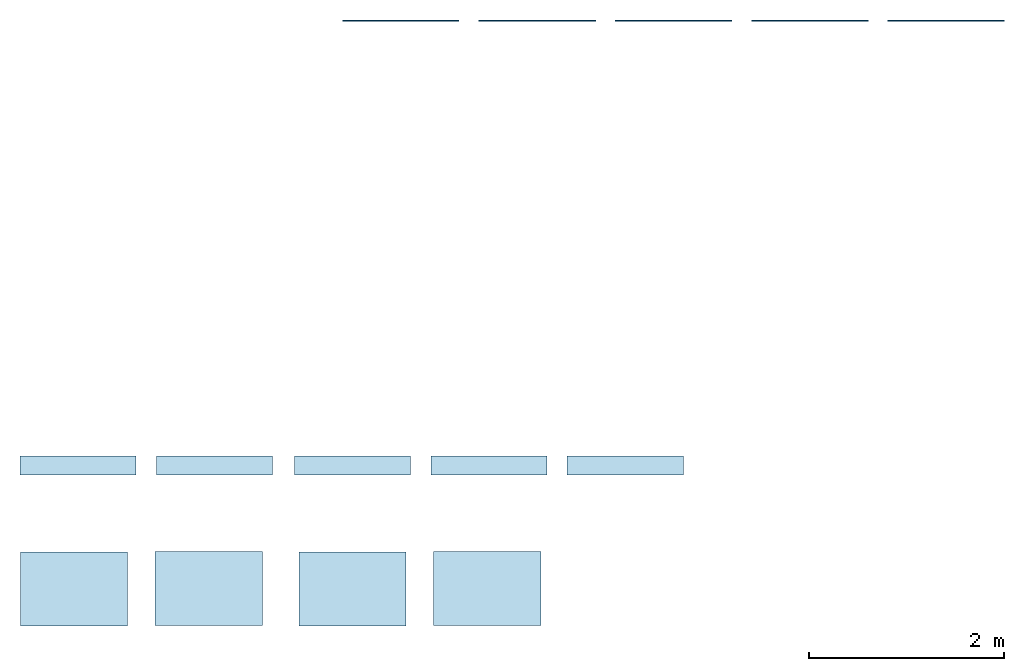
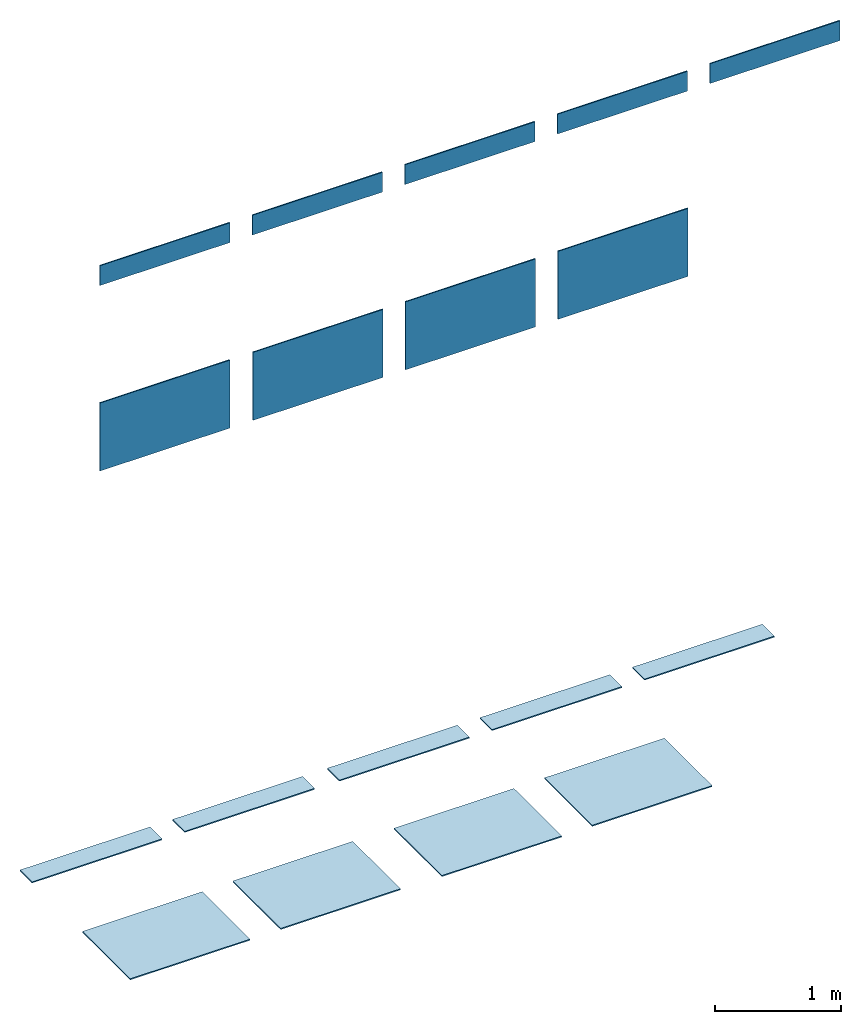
# One storey: 9 slabs, 9 walls.
"""IFC2X3 building model written with IfcOpenShell, lengths in metres."""

from ifc_helpers import new_model, entity, si_unit, converted_unit, derived_unit, direction, frame, frame_2d, origin, origin_2d_with_axis, place, context, subcontext, project, spatial, rectangle, extrude, material, layer, layer_set, layer_usage, type_object, element, save


model = new_model("IFC2X3")

# Units and contexts
model_context = context("Model", 3, precision=1e-05, world=origin(), true_north=direction((6.12303176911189e-17, 1.0)))
body_context = subcontext(model_context, "Body", "Model", "MODEL_VIEW")
ifc_project = project(units=[si_unit("LENGTHUNIT", "METRE"), si_unit("AREAUNIT", "SQUARE_METRE"), si_unit("VOLUMEUNIT", "CUBIC_METRE"), converted_unit("PLANEANGLEUNIT", "DEGREE", entity("IfcRatioMeasure", 0.0174532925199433), si_unit("PLANEANGLEUNIT", "RADIAN"), dimensions=[0, 0, 0, 0, 0, 0, 0]), si_unit("MASSUNIT", "GRAM", prefix="KILO"), si_unit("TIMEUNIT", "SECOND"), si_unit("FREQUENCYUNIT", "HERTZ"), si_unit("THERMODYNAMICTEMPERATUREUNIT", "DEGREE_CELSIUS"), derived_unit("THERMALTRANSMITTANCEUNIT", [(si_unit("MASSUNIT", "GRAM", prefix="KILO"), 1), (si_unit("THERMODYNAMICTEMPERATUREUNIT", "KELVIN"), -1), (si_unit("TIMEUNIT", "SECOND"), -3)]), derived_unit("VOLUMETRICFLOWRATEUNIT", [(si_unit("LENGTHUNIT", "METRE"), 3), (si_unit("TIMEUNIT", "SECOND"), -1)]), si_unit("ELECTRICCURRENTUNIT", "AMPERE"), si_unit("ELECTRICVOLTAGEUNIT", "VOLT"), si_unit("POWERUNIT", "WATT"), si_unit("FORCEUNIT", "NEWTON", prefix="KILO"), si_unit("ILLUMINANCEUNIT", "LUX"), si_unit("LUMINOUSFLUXUNIT", "LUMEN"), si_unit("LUMINOUSINTENSITYUNIT", "CANDELA"), derived_unit("USERDEFINED", [(si_unit("MASSUNIT", "GRAM", prefix="KILO"), -1), (si_unit("LENGTHUNIT", "METRE"), -2), (si_unit("TIMEUNIT", "SECOND"), 3), (si_unit("LUMINOUSFLUXUNIT", "LUMEN"), 1)]), derived_unit("LINEARVELOCITYUNIT", [(si_unit("LENGTHUNIT", "METRE"), 1), (si_unit("TIMEUNIT", "SECOND"), -1)]), si_unit("PRESSUREUNIT", "PASCAL"), derived_unit("USERDEFINED", [(si_unit("LENGTHUNIT", "METRE"), -2), (si_unit("MASSUNIT", "GRAM", prefix="KILO"), 1), (si_unit("TIMEUNIT", "SECOND"), -2)])], contexts=[model_context])

# Site, building, storey
site_placement = place(None, origin())
site = spatial("IfcSite", under=ifc_project, at=site_placement, Name="Default", CompositionType="ELEMENT")
building_placement = place(site_placement, origin())
building = spatial("IfcBuilding", under=site, at=building_placement, CompositionType="ELEMENT")
storey_placement = place(building_placement, origin())
storey = spatial("IfcBuildingStorey", under=building, at=storey_placement, Name="WORLD WOODS FLOOR TILES", CompositionType="ELEMENT", Elevation=0.0)

# Slabs
ifc_material_1 = material(Name="VIVES NORDLAND-R BEIGE 19.2x119.3")
ifc_layer_1 = layer(ifc_material_1, 0.011)
ifc_layer_set_1 = layer_set([ifc_layer_1], Name="Suelo:VIVES NORDLAND-R BEIGE 19.2x119.3")
ifc_layer_usage_1 = layer_usage(ifc_layer_set_1, "AXIS3", "POSITIVE", 0.0)
slab_1_placement = place(storey_placement, origin())
element("IfcSlab", 1, at=slab_1_placement, inside=storey, material=ifc_layer_usage_1, Name="Suelo:VIVES NORDLAND-R BEIGE 19.2x119.3", ObjectType="Suelo:VIVES NORDLAND-R BEIGE 19.2x119.3", PredefinedType="FLOOR", context=body_context, shape_type="SweptSolid", body=[
    extrude(rectangle(XDim=0.192, YDim=1.193, at=frame_2d((0.0, 1.11022302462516e-16), x_axis=(1.0, 0.0))), frame((-1.93692688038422, -3.95340212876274, 0.0), z_axis=(0.0, 0.0, -1.0), x_axis=(0.0, 1.0, 0.0)), (0.0, 0.0, 1.0), 0.011),
])
ifc_material_2 = material(Name="VIVES FREMONT-R NATURAL 19.2x119.3")
ifc_layer_2 = layer(ifc_material_2, 0.011)
ifc_layer_set_2 = layer_set([ifc_layer_2], Name="Suelo:VIVES FREMONT-R NATURAL 19.2x119.3")
ifc_layer_usage_2 = layer_usage(ifc_layer_set_2, "AXIS3", "POSITIVE", 0.0)
slab_2_placement = place(storey_placement, origin())
element("IfcSlab", 2, at=slab_2_placement, inside=storey, material=ifc_layer_usage_2, Name="Suelo:VIVES FREMONT-R NATURAL 19.2x119.3", ObjectType="Suelo:VIVES FREMONT-R NATURAL 19.2x119.3", PredefinedType="FLOOR", context=body_context, shape_type="SweptSolid", body=[
    extrude(rectangle(XDim=0.192, YDim=1.193, at=origin_2d_with_axis()), frame((-0.536926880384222, -3.95340212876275, 0.0), z_axis=(0.0, 0.0, -1.0), x_axis=(0.0, 1.0, 0.0)), (0.0, 0.0, 1.0), 0.011),
])
ifc_material_3 = material(Name="VIVES VENETO-R CANELA 19.2x119.3")
ifc_layer_3 = layer(ifc_material_3, 0.011)
ifc_layer_set_3 = layer_set([ifc_layer_3], Name="Suelo:VIVES VENETO-R CANELA 19.2x119.3")
ifc_layer_usage_3 = layer_usage(ifc_layer_set_3, "AXIS3", "POSITIVE", 0.0)
slab_3_placement = place(storey_placement, origin())
element("IfcSlab", 3, at=slab_3_placement, inside=storey, material=ifc_layer_usage_3, Name="Suelo:VIVES VENETO-R CANELA 19.2x119.3", ObjectType="Suelo:VIVES VENETO-R CANELA 19.2x119.3", PredefinedType="FLOOR", context=body_context, shape_type="SweptSolid", body=[
    extrude(rectangle(XDim=0.192, YDim=1.193, at=origin_2d_with_axis()), frame((0.883073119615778, -3.95340212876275, 0.0), z_axis=(0.0, 0.0, -1.0), x_axis=(0.0, 1.0, 0.0)), (0.0, 0.0, 1.0), 0.011),
])
ifc_material_4 = material(Name="VIVES OKINAWA-R CARBON 19.2x119.3")
ifc_layer_4 = layer(ifc_material_4, 0.011)
ifc_layer_set_4 = layer_set([ifc_layer_4], Name="Suelo:VIVES OKINAWA-R CARBON 19.2x119.3")
ifc_layer_usage_4 = layer_usage(ifc_layer_set_4, "AXIS3", "POSITIVE", 0.0)
slab_4_placement = place(storey_placement, origin())
element("IfcSlab", 4, at=slab_4_placement, inside=storey, material=ifc_layer_usage_4, Name="Suelo:VIVES OKINAWA-R CARBON 19.2x119.3", ObjectType="Suelo:VIVES OKINAWA-R CARBON 19.2x119.3", PredefinedType="FLOOR", context=body_context, shape_type="SweptSolid", body=[
    extrude(rectangle(XDim=0.192, YDim=1.193, at=frame_2d((0.0, -2.22044604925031e-16), x_axis=(1.0, 0.0))), frame((2.28307311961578, -3.95340212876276, 0.0), z_axis=(0.0, 0.0, -1.0), x_axis=(0.0, 1.0, 0.0)), (0.0, 0.0, 1.0), 0.011),
])
ifc_material_5 = material(Name="VIVES NAMIBE-R 19.2x119.3")
ifc_layer_5 = layer(ifc_material_5, 0.011)
ifc_layer_set_5 = layer_set([ifc_layer_5], Name="Suelo:VIVES NAMIBE-R 19.2x119.3")
ifc_layer_usage_5 = layer_usage(ifc_layer_set_5, "AXIS3", "POSITIVE", 0.0)
slab_5_placement = place(storey_placement, origin())
element("IfcSlab", 5, at=slab_5_placement, inside=storey, material=ifc_layer_usage_5, Name="Suelo:VIVES NAMIBE-R 19.2x119.3", ObjectType="Suelo:VIVES NAMIBE-R 19.2x119.3", PredefinedType="FLOOR", context=body_context, shape_type="SweptSolid", body=[
    extrude(rectangle(XDim=0.192, YDim=1.193, at=frame_2d((0.0, -2.22044604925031e-16), x_axis=(1.0, 0.0))), frame((3.68307311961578, -3.95340212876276, 0.0), z_axis=(0.0, 0.0, -1.0), x_axis=(0.0, 1.0, 0.0)), (0.0, 0.0, 1.0), 0.011),
])
ifc_material_6 = material(Name="VIVES ADAMANT NORDLAND BEIGE 22x38")
ifc_layer_6 = layer(ifc_material_6, 0.011)
ifc_layer_set_6 = layer_set([ifc_layer_6], Name="Suelo:VIVES ADAMANT NORDLAND BEIGE 22x38")
ifc_layer_usage_6 = layer_usage(ifc_layer_set_6, "AXIS3", "POSITIVE", 0.0)
slab_6_placement = place(storey_placement, origin())
element("IfcSlab", 6, at=slab_6_placement, inside=storey, material=ifc_layer_usage_6, Name="Suelo:VIVES ADAMANT NORDLAND BEIGE 22x38", ObjectType="Suelo:VIVES ADAMANT NORDLAND BEIGE 22x38", PredefinedType="FLOOR", context=body_context, shape_type="SweptSolid", body=[
    extrude(rectangle(XDim=0.76, YDim=1.1, at=frame_2d((-2.4980018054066e-16, -1.11022302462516e-16), x_axis=(1.0, 0.0))), frame((-1.97886213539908, -5.22211055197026, 0.0), z_axis=(0.0, 0.0, -1.0), x_axis=(0.0, 1.0, 0.0)), (0.0, 0.0, 1.0), 0.011),
])
ifc_material_7 = material(Name="VIVES ADAMANT FREMONT NATURAL 22x38")
ifc_layer_7 = layer(ifc_material_7, 0.011)
ifc_layer_set_7 = layer_set([ifc_layer_7], Name="Suelo:VIVES ADAMANT FREMONT NATURAL 22x38")
ifc_layer_usage_7 = layer_usage(ifc_layer_set_7, "AXIS3", "POSITIVE", 0.0)
slab_7_placement = place(storey_placement, origin())
element("IfcSlab", 7, at=slab_7_placement, inside=storey, material=ifc_layer_usage_7, Name="Suelo:VIVES ADAMANT FREMONT NATURAL 22x38", ObjectType="Suelo:VIVES ADAMANT FREMONT NATURAL 22x38", PredefinedType="FLOOR", context=body_context, shape_type="SweptSolid", body=[
    extrude(rectangle(XDim=0.76, YDim=1.1, at=origin_2d_with_axis()), frame((-0.594824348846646, -5.21569579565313, 0.0), z_axis=(0.0, 0.0, -1.0), x_axis=(0.0, 1.0, 0.0)), (0.0, 0.0, 1.0), 0.011),
])
ifc_material_8 = material(Name="VIVES ADAMANT VENETO CANELA 22x38")
ifc_layer_8 = layer(ifc_material_8, 0.011)
ifc_layer_set_8 = layer_set([ifc_layer_8], Name="Suelo:VIVES ADAMANT VENETO CANELA 22x38")
ifc_layer_usage_8 = layer_usage(ifc_layer_set_8, "AXIS3", "POSITIVE", 0.0)
slab_8_placement = place(storey_placement, origin())
element("IfcSlab", 8, at=slab_8_placement, inside=storey, material=ifc_layer_usage_8, Name="Suelo:VIVES ADAMANT VENETO CANELA 22x38", ObjectType="Suelo:VIVES ADAMANT VENETO CANELA 22x38", PredefinedType="FLOOR", context=body_context, shape_type="SweptSolid", body=[
    extrude(rectangle(XDim=0.76, YDim=1.1, at=frame_2d((-2.4980018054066e-16, 0.0), x_axis=(1.0, 0.0))), frame((0.881137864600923, -5.22211055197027, 0.0), z_axis=(0.0, 0.0, -1.0), x_axis=(0.0, 1.0, 0.0)), (0.0, 0.0, 1.0), 0.011),
])
ifc_material_9 = material(Name="VIVES ADAMANT OKINAWA CARBON 22x38")
ifc_layer_9 = layer(ifc_material_9, 0.011)
ifc_layer_set_9 = layer_set([ifc_layer_9], Name="Suelo:VIVES ADAMANT OKINAWA CARBÓN 22x38")
ifc_layer_usage_9 = layer_usage(ifc_layer_set_9, "AXIS3", "POSITIVE", 0.0)
slab_9_placement = place(storey_placement, origin())
element("IfcSlab", 9, at=slab_9_placement, inside=storey, material=ifc_layer_usage_9, Name="Suelo:VIVES ADAMANT OKINAWA CARBÓN 22x38", ObjectType="Suelo:VIVES ADAMANT OKINAWA CARBÓN 22x38", PredefinedType="FLOOR", context=body_context, shape_type="SweptSolid", body=[
    extrude(rectangle(XDim=0.76, YDim=1.1, at=origin_2d_with_axis()), frame((2.26517565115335, -5.21569579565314, 0.0), z_axis=(0.0, 0.0, -1.0), x_axis=(0.0, 1.0, 0.0)), (0.0, 0.0, 1.0), 0.011),
])

# Walls
ifc_layer_10 = layer(ifc_material_1, 0.011)
ifc_layer_set_10 = layer_set([ifc_layer_10], Name="Muro básico:VIVES NORDLAND-R BEIGE 19.2x119.3")
ifc_layer_usage_10 = layer_usage(ifc_layer_set_10, "AXIS2", "NEGATIVE", 0.0055)
wall_type_1 = type_object("IfcWallType", Name="Muro básico:VIVES NORDLAND-R BEIGE 19.2x119.3", PredefinedType="STANDARD", material=ifc_layer_set_10)
wall_1_placement = place(storey_placement, frame((0.780149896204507, 0.616672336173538, 1.8)))
element("IfcWallStandardCase", 10, at=wall_1_placement, inside=storey, type_object=wall_type_1, material=ifc_layer_usage_10, Name="Muro básico:VIVES NORDLAND-R BEIGE 19.2x119.3", ObjectType="Muro básico:VIVES NORDLAND-R BEIGE 19.2x119.3", context=body_context, shape_type="SweptSolid", body=[
    extrude(rectangle(XDim=1.193, YDim=0.0109999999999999, at=frame_2d((0.5965, -2.81892564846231e-17), x_axis=(-1.0, 0.0))), origin(), (0.0, 0.0, 1.0), 0.192),
])
ifc_layer_11 = layer(ifc_material_2, 0.011)
ifc_layer_set_11 = layer_set([ifc_layer_11], Name="Muro básico:VIVES FREMONT-R NATURAL 19.2x119.3")
ifc_layer_usage_11 = layer_usage(ifc_layer_set_11, "AXIS2", "NEGATIVE", 0.0055)
wall_type_2 = type_object("IfcWallType", Name="Muro básico:VIVES FREMONT-R NATURAL 19.2x119.3", PredefinedType="STANDARD", material=ifc_layer_set_11)
wall_2_placement = place(storey_placement, frame((2.18014989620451, 0.616672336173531, 1.8)))
element("IfcWallStandardCase", 11, at=wall_2_placement, inside=storey, type_object=wall_type_2, material=ifc_layer_usage_11, Name="Muro básico:VIVES FREMONT-R NATURAL 19.2x119.3", ObjectType="Muro básico:VIVES FREMONT-R NATURAL 19.2x119.3", context=body_context, shape_type="SweptSolid", body=[
    extrude(rectangle(XDim=1.193, YDim=0.0109999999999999, at=frame_2d((0.5965, -2.81892564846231e-17), x_axis=(-1.0, 0.0))), origin(), (0.0, 0.0, 1.0), 0.192),
])
ifc_layer_12 = layer(ifc_material_3, 0.011)
ifc_layer_set_12 = layer_set([ifc_layer_12], Name="Muro básico:VIVES VENETO-R CANELA 19.2x119.3")
ifc_layer_usage_12 = layer_usage(ifc_layer_set_12, "AXIS2", "NEGATIVE", 0.0055)
wall_type_3 = type_object("IfcWallType", Name="Muro básico:VIVES VENETO-R CANELA 19.2x119.3", PredefinedType="STANDARD", material=ifc_layer_set_12)
wall_3_placement = place(storey_placement, frame((3.58014989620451, 0.616672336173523, 1.8)))
element("IfcWallStandardCase", 12, at=wall_3_placement, inside=storey, type_object=wall_type_3, material=ifc_layer_usage_12, Name="Muro básico:VIVES VENETO-R CANELA 19.2x119.3", ObjectType="Muro básico:VIVES VENETO-R CANELA 19.2x119.3", context=body_context, shape_type="SweptSolid", body=[
    extrude(rectangle(XDim=1.193, YDim=0.0109999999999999, at=frame_2d((0.5965, -2.81892564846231e-17), x_axis=(-1.0, 0.0))), origin(), (0.0, 0.0, 1.0), 0.192),
])
ifc_layer_13 = layer(ifc_material_4, 0.011)
ifc_layer_set_13 = layer_set([ifc_layer_13], Name="Muro básico:VIVES OKINAWA-R CARBON 19.2x119.3")
ifc_layer_usage_13 = layer_usage(ifc_layer_set_13, "AXIS2", "NEGATIVE", 0.0055)
wall_type_4 = type_object("IfcWallType", Name="Muro básico:VIVES OKINAWA-R CARBON 19.2x119.3", PredefinedType="STANDARD", material=ifc_layer_set_13)
wall_4_placement = place(storey_placement, frame((4.98014989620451, 0.616672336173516, 1.8)))
element("IfcWallStandardCase", 13, at=wall_4_placement, inside=storey, type_object=wall_type_4, material=ifc_layer_usage_13, Name="Muro básico:VIVES OKINAWA-R CARBON 19.2x119.3", ObjectType="Muro básico:VIVES OKINAWA-R CARBON 19.2x119.3", context=body_context, shape_type="SweptSolid", body=[
    extrude(rectangle(XDim=1.193, YDim=0.0109999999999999, at=frame_2d((0.5965, -2.81892564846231e-17), x_axis=(-1.0, 0.0))), origin(), (0.0, 0.0, 1.0), 0.192),
])
ifc_layer_14 = layer(ifc_material_5, 0.011)
ifc_layer_set_14 = layer_set([ifc_layer_14], Name="Muro básico:VIVES NAMIBE-R 19.2x119.3")
ifc_layer_usage_14 = layer_usage(ifc_layer_set_14, "AXIS2", "NEGATIVE", 0.0055)
wall_type_5 = type_object("IfcWallType", Name="Muro básico:VIVES NAMIBE-R 19.2x119.3", PredefinedType="STANDARD", material=ifc_layer_set_14)
wall_5_placement = place(storey_placement, frame((6.38014989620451, 0.616672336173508, 1.8)))
element("IfcWallStandardCase", 14, at=wall_5_placement, inside=storey, type_object=wall_type_5, material=ifc_layer_usage_14, Name="Muro básico:VIVES NAMIBE-R 19.2x119.3", ObjectType="Muro básico:VIVES NAMIBE-R 19.2x119.3", context=body_context, shape_type="SweptSolid", body=[
    extrude(rectangle(XDim=1.193, YDim=0.0109999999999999, at=frame_2d((0.5965, -2.81892564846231e-17), x_axis=(-1.0, 0.0))), origin(), (0.0, 0.0, 1.0), 0.192),
])
ifc_layer_15 = layer(ifc_material_6, 0.011)
ifc_layer_set_15 = layer_set([ifc_layer_15], Name="Muro básico:VIVES ADAMANT NORDLAND BEIGE 22x38")
ifc_layer_usage_15 = layer_usage(ifc_layer_set_15, "AXIS2", "NEGATIVE", 0.0055)
wall_type_6 = type_object("IfcWallType", Name="Muro básico:VIVES ADAMANT NORDLAND BEIGE 22x38", PredefinedType="STANDARD", material=ifc_layer_set_15)
wall_6_placement = place(storey_placement, frame((0.780149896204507, 0.616672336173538, 0.0)))
element("IfcWallStandardCase", 15, at=wall_6_placement, inside=storey, type_object=wall_type_6, material=ifc_layer_usage_15, Name="Muro básico:VIVES ADAMANT NORDLAND BEIGE 22x38", ObjectType="Muro básico:VIVES ADAMANT NORDLAND BEIGE 22x38", context=body_context, shape_type="SweptSolid", body=[
    extrude(rectangle(XDim=1.193, YDim=0.0109999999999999, at=frame_2d((0.5965, -2.81892564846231e-17), x_axis=(-1.0, 0.0))), origin(), (0.0, 0.0, 1.0), 0.66),
])
ifc_layer_16 = layer(ifc_material_7, 0.011)
ifc_layer_set_16 = layer_set([ifc_layer_16], Name="Muro básico:VIVES ADAMANT FREMONT NATURAL 22x38")
ifc_layer_usage_16 = layer_usage(ifc_layer_set_16, "AXIS2", "NEGATIVE", 0.0055)
wall_type_7 = type_object("IfcWallType", Name="Muro básico:VIVES ADAMANT FREMONT NATURAL 22x38", PredefinedType="STANDARD", material=ifc_layer_set_16)
wall_7_placement = place(storey_placement, frame((2.18512148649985, 0.616672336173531, 0.0)))
element("IfcWallStandardCase", 16, at=wall_7_placement, inside=storey, type_object=wall_type_7, material=ifc_layer_usage_16, Name="Muro básico:VIVES ADAMANT FREMONT NATURAL 22x38", ObjectType="Muro básico:VIVES ADAMANT FREMONT NATURAL 22x38", context=body_context, shape_type="SweptSolid", body=[
    extrude(rectangle(XDim=1.193, YDim=0.0109999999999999, at=frame_2d((0.5965, -2.81892564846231e-17), x_axis=(-1.0, 0.0))), origin(), (0.0, 0.0, 1.0), 0.66),
])
ifc_layer_17 = layer(ifc_material_8, 0.011)
ifc_layer_set_17 = layer_set([ifc_layer_17], Name="Muro básico:VIVES ADAMANT VENETO CANELA 22x38")
ifc_layer_usage_17 = layer_usage(ifc_layer_set_17, "AXIS2", "NEGATIVE", 0.0055)
wall_type_8 = type_object("IfcWallType", Name="Muro básico:VIVES ADAMANT VENETO CANELA 22x38", PredefinedType="STANDARD", material=ifc_layer_set_17)
wall_8_placement = place(storey_placement, frame((3.58512148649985, 0.616672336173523, 0.0)))
element("IfcWallStandardCase", 17, at=wall_8_placement, inside=storey, type_object=wall_type_8, material=ifc_layer_usage_17, Name="Muro básico:VIVES ADAMANT VENETO CANELA 22x38", ObjectType="Muro básico:VIVES ADAMANT VENETO CANELA 22x38", context=body_context, shape_type="SweptSolid", body=[
    extrude(rectangle(XDim=1.193, YDim=0.0109999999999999, at=frame_2d((0.5965, -2.81892564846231e-17), x_axis=(-1.0, 0.0))), origin(), (0.0, 0.0, 1.0), 0.66),
])
ifc_layer_18 = layer(ifc_material_9, 0.011)
ifc_layer_set_18 = layer_set([ifc_layer_18], Name="Muro básico:VIVES ADAMANT OKINAWA CARBON 22x38")
ifc_layer_usage_18 = layer_usage(ifc_layer_set_18, "AXIS2", "NEGATIVE", 0.0055)
wall_type_9 = type_object("IfcWallType", Name="Muro básico:VIVES ADAMANT OKINAWA CARBON 22x38", PredefinedType="STANDARD", material=ifc_layer_set_18)
wall_9_placement = place(storey_placement, frame((4.98512148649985, 0.616672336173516, 0.0)))
element("IfcWallStandardCase", 18, at=wall_9_placement, inside=storey, type_object=wall_type_9, material=ifc_layer_usage_18, Name="Muro básico:VIVES ADAMANT OKINAWA CARBON 22x38", ObjectType="Muro básico:VIVES ADAMANT OKINAWA CARBON 22x38", context=body_context, shape_type="SweptSolid", body=[
    extrude(rectangle(XDim=1.193, YDim=0.0109999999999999, at=frame_2d((0.5965, -2.81892564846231e-17), x_axis=(-1.0, 0.0))), origin(), (0.0, 0.0, 1.0), 0.66),
])

save(model, "model.ifc")
